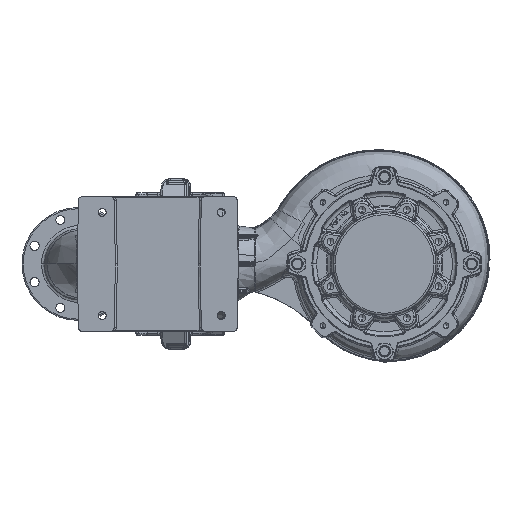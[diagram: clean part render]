
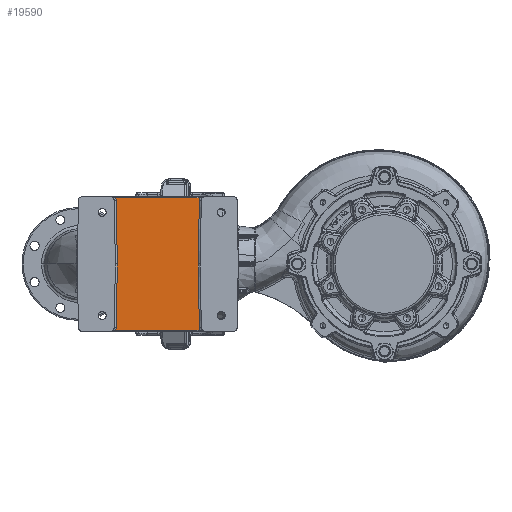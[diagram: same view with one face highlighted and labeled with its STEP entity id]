
A CAD part, front view. The second image highlights one B-rep face of the part: STEP entity #19590.
In plain terms, the highlighted planar face has unit normal (0, -1, 0).
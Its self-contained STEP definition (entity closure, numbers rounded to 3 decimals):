
#2709 = DIRECTION ( 'NONE',  ( 0.017, 0., -1. ) ) ;
#3450 = CARTESIAN_POINT ( 'NONE',  ( -465.44, -642.059, -167. ) ) ;
#7752 = DIRECTION ( 'NONE',  ( 0.017, 0., 1. ) ) ;
#19590 = ADVANCED_FACE ( 'NONE', ( #91880 ), #272368, .T. ) ;
#22969 = AXIS2_PLACEMENT_3D ( 'NONE', #228697, #92111, #251676 ) ;
#29464 = DIRECTION ( 'NONE',  ( 1., 0., 0. ) ) ;
#36354 = ORIENTED_EDGE ( 'NONE', *, *, #175202, .T. ) ;
#36713 = LINE ( 'NONE', #116505, #272188 ) ;
#37079 = CARTESIAN_POINT ( 'NONE',  ( -678.56, -642.059, 167. ) ) ;
#38349 = VERTEX_POINT ( 'NONE', #73344 ) ;
#45844 = CARTESIAN_POINT ( 'NONE',  ( -467.171, -642.059, -160.262 ) ) ;
#45982 = EDGE_LOOP ( 'NONE', ( #75513, #253007, #276008, #36354, #257123, #154878, #229066, #291894, #262438, #259434 ) ) ;
#48939 = EDGE_CURVE ( 'NONE', #60064, #294395, #148437, .T. ) ;
#50334 = CIRCLE ( 'NONE', #102648, 15. ) ;
#50868 = VECTOR ( 'NONE', #7752, 1000. ) ;
#51278 = CARTESIAN_POINT ( 'NONE',  ( -676.829, -642.059, 160.262 ) ) ;
#52487 = EDGE_CURVE ( 'NONE', #294395, #152403, #36713, .T. ) ;
#60064 = VERTEX_POINT ( 'NONE', #37079 ) ;
#61316 = CARTESIAN_POINT ( 'NONE',  ( -691.827, -642.059, -160. ) ) ;
#67997 = CARTESIAN_POINT ( 'NONE',  ( -772., -642.059, 0. ) ) ;
#72408 = CARTESIAN_POINT ( 'NONE',  ( -469.968, -642.059, 0. ) ) ;
#73239 = VERTEX_POINT ( 'NONE', #72408 ) ;
#73344 = CARTESIAN_POINT ( 'NONE',  ( -467.171, -642.059, 160.262 ) ) ;
#75513 = ORIENTED_EDGE ( 'NONE', *, *, #263376, .T. ) ;
#76881 = AXIS2_PLACEMENT_3D ( 'NONE', #92236, #251795, #115220 ) ;
#82763 = VERTEX_POINT ( 'NONE', #109211 ) ;
#84283 = DIRECTION ( 'NONE',  ( 0., 0., -1. ) ) ;
#85541 = LINE ( 'NONE', #215946, #206895 ) ;
#87359 = EDGE_CURVE ( 'NONE', #82763, #117112, #85541, .T. ) ;
#90935 = DIRECTION ( 'NONE',  ( 0., 0., -1. ) ) ;
#91880 = FACE_OUTER_BOUND ( 'NONE', #45982, .T. ) ;
#92111 = DIRECTION ( 'NONE',  ( 0., 1., 0. ) ) ;
#92236 = CARTESIAN_POINT ( 'NONE',  ( -452.173, -642.059, 160. ) ) ;
#97860 = CARTESIAN_POINT ( 'NONE',  ( -452.173, -642.059, -160. ) ) ;
#99039 = VECTOR ( 'NONE', #292263, 1000. ) ;
#100583 = EDGE_CURVE ( 'NONE', #117112, #211694, #177849, .T. ) ;
#102648 = AXIS2_PLACEMENT_3D ( 'NONE', #61316, #220891, #84283 ) ;
#109211 = CARTESIAN_POINT ( 'NONE',  ( -678.56, -642.059, -167. ) ) ;
#109791 = EDGE_CURVE ( 'NONE', #38349, #115444, #203385, .T. ) ;
#115220 = DIRECTION ( 'NONE',  ( 0., 0., -1. ) ) ;
#115444 = VERTEX_POINT ( 'NONE', #172035 ) ;
#116505 = CARTESIAN_POINT ( 'NONE',  ( -674.062, -642.059, 1.71 ) ) ;
#117112 = VERTEX_POINT ( 'NONE', #3450 ) ;
#119310 = CARTESIAN_POINT ( 'NONE',  ( -676.829, -642.059, -160.262 ) ) ;
#120402 = LINE ( 'NONE', #264616, #295036 ) ;
#120830 = DIRECTION ( 'NONE',  ( 0., 0., -1. ) ) ;
#121545 = CARTESIAN_POINT ( 'NONE',  ( -470.06, -642.059, -5.27 ) ) ;
#127940 = DIRECTION ( 'NONE',  ( -0.017, 0., -1. ) ) ;
#129834 = LINE ( 'NONE', #265045, #244046 ) ;
#139820 = EDGE_CURVE ( 'NONE', #115444, #60064, #220344, .T. ) ;
#148437 = CIRCLE ( 'NONE', #22969, 15. ) ;
#152403 = VERTEX_POINT ( 'NONE', #182183 ) ;
#154878 = ORIENTED_EDGE ( 'NONE', *, *, #109791, .T. ) ;
#155784 = CARTESIAN_POINT ( 'NONE',  ( -772., -642.059, 167. ) ) ;
#172035 = CARTESIAN_POINT ( 'NONE',  ( -465.44, -642.059, 167. ) ) ;
#175202 = EDGE_CURVE ( 'NONE', #211694, #73239, #129834, .T. ) ;
#177849 = CIRCLE ( 'NONE', #215008, 15. ) ;
#182183 = CARTESIAN_POINT ( 'NONE',  ( -674.032, -642.059, 0. ) ) ;
#188531 = AXIS2_PLACEMENT_3D ( 'NONE', #67997, #227551, #90935 ) ;
#203385 = CIRCLE ( 'NONE', #76881, 15. ) ;
#206895 = VECTOR ( 'NONE', #29464, 1000. ) ;
#211694 = VERTEX_POINT ( 'NONE', #45844 ) ;
#215008 = AXIS2_PLACEMENT_3D ( 'NONE', #97860, #257430, #120830 ) ;
#215946 = CARTESIAN_POINT ( 'NONE',  ( -772., -642.059, -167. ) ) ;
#220344 = LINE ( 'NONE', #155784, #99039 ) ;
#220891 = DIRECTION ( 'NONE',  ( 0., 1., 0. ) ) ;
#227551 = DIRECTION ( 'NONE',  ( 0., -1., 0. ) ) ;
#228697 = CARTESIAN_POINT ( 'NONE',  ( -691.827, -642.059, 160. ) ) ;
#229066 = ORIENTED_EDGE ( 'NONE', *, *, #139820, .T. ) ;
#234181 = EDGE_CURVE ( 'NONE', #73239, #38349, #293353, .T. ) ;
#244046 = VECTOR ( 'NONE', #287844, 1000. ) ;
#250801 = EDGE_CURVE ( 'NONE', #152403, #271590, #120402, .T. ) ;
#251676 = DIRECTION ( 'NONE',  ( 0., 0., -1. ) ) ;
#251795 = DIRECTION ( 'NONE',  ( 0., 1., 0. ) ) ;
#253007 = ORIENTED_EDGE ( 'NONE', *, *, #87359, .T. ) ;
#257123 = ORIENTED_EDGE ( 'NONE', *, *, #234181, .T. ) ;
#257430 = DIRECTION ( 'NONE',  ( 0., 1., 0. ) ) ;
#259434 = ORIENTED_EDGE ( 'NONE', *, *, #250801, .T. ) ;
#262438 = ORIENTED_EDGE ( 'NONE', *, *, #52487, .T. ) ;
#263376 = EDGE_CURVE ( 'NONE', #271590, #82763, #50334, .T. ) ;
#264616 = CARTESIAN_POINT ( 'NONE',  ( -676.829, -642.059, -160.262 ) ) ;
#265045 = CARTESIAN_POINT ( 'NONE',  ( -469.967, -642.059, -0.087 ) ) ;
#271590 = VERTEX_POINT ( 'NONE', #119310 ) ;
#272188 = VECTOR ( 'NONE', #2709, 1000. ) ;
#272368 = PLANE ( 'NONE',  #188531 ) ;
#276008 = ORIENTED_EDGE ( 'NONE', *, *, #100583, .T. ) ;
#287844 = DIRECTION ( 'NONE',  ( -0.017, 0., 1. ) ) ;
#291894 = ORIENTED_EDGE ( 'NONE', *, *, #48939, .T. ) ;
#292263 = DIRECTION ( 'NONE',  ( -1., 0., 0. ) ) ;
#293353 = LINE ( 'NONE', #121545, #50868 ) ;
#294395 = VERTEX_POINT ( 'NONE', #51278 ) ;
#295036 = VECTOR ( 'NONE', #127940, 1000. ) ;
